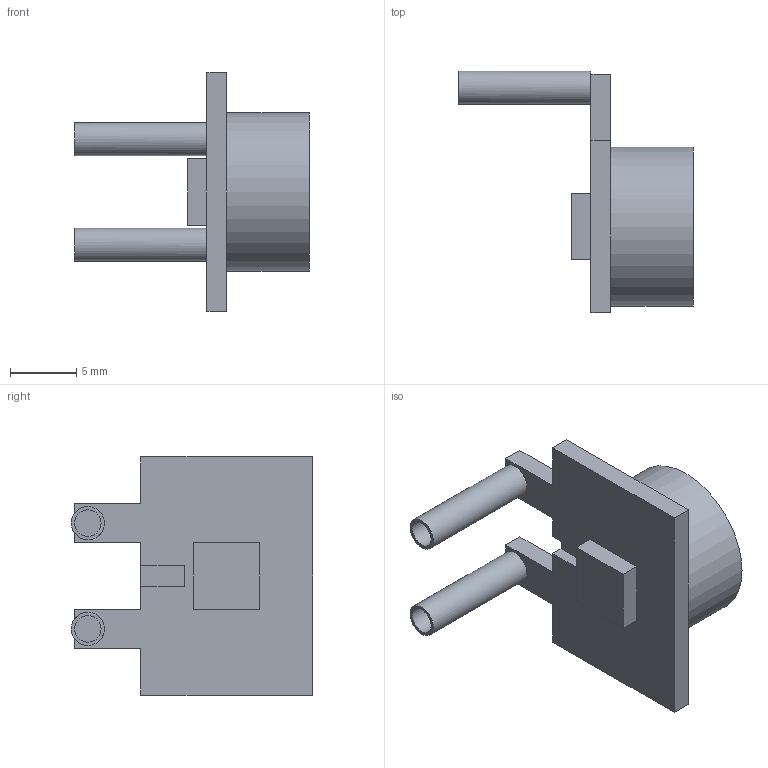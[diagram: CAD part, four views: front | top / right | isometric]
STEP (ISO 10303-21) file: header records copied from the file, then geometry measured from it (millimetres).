
FILE_DESCRIPTION(('Open CASCADE Model'),'2;1');
FILE_NAME('CAP_UP_GUIDED','2026-09-06T11:49:22',('Author'),( 'Open CASCADE'),'Open CASCADE STEP processor 7.8','build123d', 'Unknown');
FILE_SCHEMA(('AUTOMOTIVE_DESIGN { 1 0 10303 214 1 1 1 1 }'));
Length unit declared in the file: millimetre
Products named in the file (1): CAP_UP_GUIDED
Bounding box: 17.75 x 18.25 x 18 mm (x, y, z)
Volume: 1204.2 mm3; surface area: 1139.8 mm2
Topology: 1 solids, 1 shells, 72 faces, 155 edges, 102 vertices
Faces by surface type: plane 55, cylinder 17
Full cylindrical faces by diameter (mm): 0.64 x12, 2 x2, 2.5 x2, 12 x1
Entity records: 3933 total; most frequent: CARTESIAN_POINT 686, DIRECTION 608, LINE 349, VECTOR 349, ORIENTED_EDGE 310, PCURVE 310, DEFINITIONAL_REPRESENTATION 310, EDGE_CURVE 155
